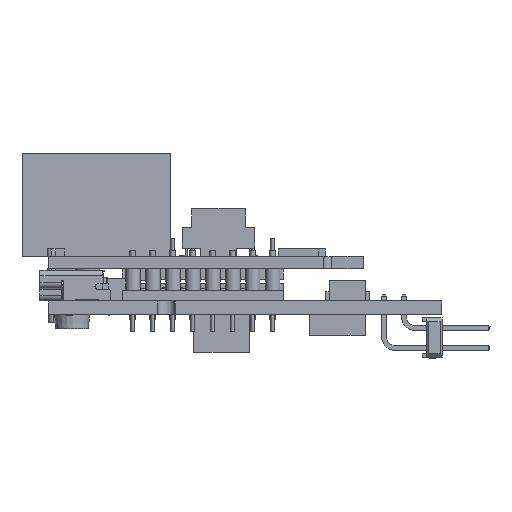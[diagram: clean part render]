
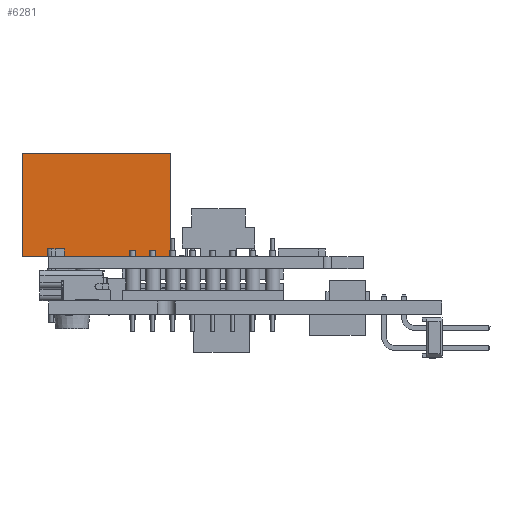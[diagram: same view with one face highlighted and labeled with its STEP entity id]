
A CAD part, left-side view. The second image highlights one B-rep face of the part: STEP entity #6281.
In plain terms, the highlighted planar face has unit normal (-1, 0, 0).
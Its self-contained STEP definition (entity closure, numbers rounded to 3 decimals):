
#3232=PLANE('',#59749);
#6281=ADVANCED_FACE('',(#9484),#3232,.F.);
#9484=FACE_OUTER_BOUND('',#12846,.T.);
#12846=EDGE_LOOP('',(#42030,#42031,#42032,#42033,#42034,#42035,#42036));
#19092=LINE('',#89420,#25886);
#19093=LINE('',#89424,#25887);
#19791=LINE('',#91033,#26585);
#19809=LINE('',#91068,#26603);
#19810=LINE('',#91070,#26604);
#19811=LINE('',#91072,#26605);
#19812=LINE('',#91073,#26606);
#25886=VECTOR('',#72299,1.);
#25887=VECTOR('',#72302,1.);
#26585=VECTOR('',#73824,1.);
#26603=VECTOR('',#73854,1.);
#26604=VECTOR('',#73857,1.);
#26605=VECTOR('',#73858,1.);
#26606=VECTOR('',#73859,1.);
#42030=ORIENTED_EDGE('',*,*,#55160,.T.);
#42031=ORIENTED_EDGE('',*,*,#54359,.T.);
#42032=ORIENTED_EDGE('',*,*,#55161,.T.);
#42033=ORIENTED_EDGE('',*,*,#54357,.T.);
#42034=ORIENTED_EDGE('',*,*,#55159,.T.);
#42035=ORIENTED_EDGE('',*,*,#55141,.F.);
#42036=ORIENTED_EDGE('',*,*,#55162,.F.);
#46866=VERTEX_POINT('',#89419);
#46867=VERTEX_POINT('',#89421);
#46868=VERTEX_POINT('',#89423);
#46869=VERTEX_POINT('',#89425);
#47319=VERTEX_POINT('',#91032);
#47320=VERTEX_POINT('',#91034);
#47331=VERTEX_POINT('',#91071);
#54357=EDGE_CURVE('',#46867,#46866,#19092,.T.);
#54359=EDGE_CURVE('',#46869,#46868,#19093,.T.);
#55141=EDGE_CURVE('',#47319,#47320,#19791,.T.);
#55159=EDGE_CURVE('',#46866,#47320,#19809,.T.);
#55160=EDGE_CURVE('',#47331,#46869,#19810,.T.);
#55161=EDGE_CURVE('',#46868,#46867,#19811,.T.);
#55162=EDGE_CURVE('',#47331,#47319,#19812,.T.);
#59749=AXIS2_PLACEMENT_3D('',#91074,#73860,#73861);
#72299=DIRECTION('',(0.,-1.,0.));
#72302=DIRECTION('',(0.,-1.,0.));
#73824=DIRECTION('',(0.,-1.,0.));
#73854=DIRECTION('',(0.,0.,1.));
#73857=DIRECTION('',(0.,-1.,0.));
#73858=DIRECTION('',(0.,-1.,0.));
#73859=DIRECTION('',(0.,0.,1.));
#73860=DIRECTION('',(1.,0.,0.));
#73861=DIRECTION('',(0.,1.,0.));
#89419=CARTESIAN_POINT('',(-22.15,-12.52,5.63));
#89420=CARTESIAN_POINT('',(-22.15,6.38,5.63));
#89421=CARTESIAN_POINT('',(-22.15,0.519,5.63));
#89423=CARTESIAN_POINT('',(-22.15,1.681,5.63));
#89424=CARTESIAN_POINT('',(-22.15,6.38,5.63));
#89425=CARTESIAN_POINT('',(-22.15,3.,5.63));
#91032=CARTESIAN_POINT('',(-22.15,6.38,18.73));
#91033=CARTESIAN_POINT('',(-22.15,6.38,18.73));
#91034=CARTESIAN_POINT('',(-22.15,-12.52,18.73));
#91068=CARTESIAN_POINT('',(-22.15,-12.52,5.63));
#91070=CARTESIAN_POINT('',(-22.15,6.38,5.63));
#91071=CARTESIAN_POINT('',(-22.15,6.38,5.63));
#91072=CARTESIAN_POINT('',(-22.15,6.38,5.63));
#91073=CARTESIAN_POINT('',(-22.15,6.38,5.63));
#91074=CARTESIAN_POINT('',(-22.15,6.38,5.63));
